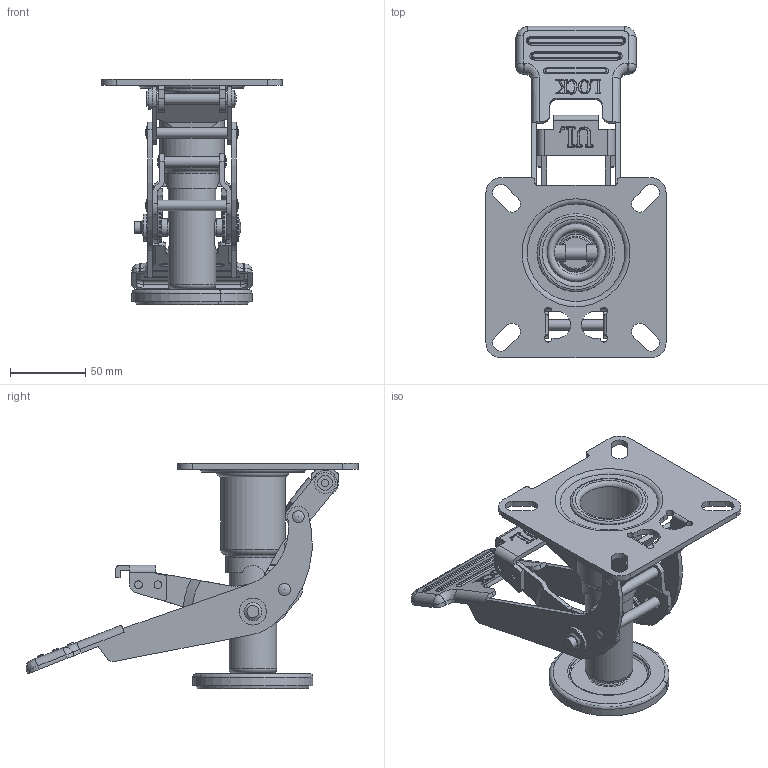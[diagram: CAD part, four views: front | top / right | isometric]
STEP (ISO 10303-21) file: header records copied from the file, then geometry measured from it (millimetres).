
FILE_DESCRIPTION( ( 'STEP AP214' ), '1' );
FILE_NAME( ' ', ' ', ( ' ' ), ( ' ' ), 'PSStep 10.0', ' ', ' ' );
FILE_SCHEMA( ( 'automotive_design' ) );
Length unit declared in the file: millimetre
Products named in the file (19): @4181; DAI_LOCK _X2_306E7D50679C_X0_; ENCHU2_LOCK _X2_306E7D50679C_X0_; GOMU_LOCK _X2_306E7D50679C_X0_; @9775; @9788; @9853; @11166; @11320; @11376; @11380; @11452; @11829; @12141; @12433; @12440
Bounding box: 120 x 221.19 x 150 mm (x, y, z)
Volume: 209024.6 mm3; surface area: 164245 mm2
Topology: 19 solids, 19 shells, 896 faces, 2309 edges, 1519 vertices
Faces by surface type: plane 453, cylinder 324, torus 41, cone 28, extrusion 28, sphere 12, bspline 8, offset 2
Full cylindrical faces by diameter (mm): 5 x1, 5.2 x4, 7 x10, 8 x17, 9 x1, 10 x1, 11 x2, 11.5 x1, 12 x2, 14 x1, 18 x3, 20 x2, 25.4 x1, 28.8 x1, 31.8 x1, 32 x1, 33.8 x1, 36 x1, 39 x1, 43 x1, 52 x1
Entity records: 37047 total; most frequent: CARTESIAN_POINT 7628, DIRECTION 4703, ORIENTED_EDGE 4338, EDGE_CURVE 2169, AXIS2_PLACEMENT_3D 1675, VERTEX_POINT 1476, VECTOR 1353, LINE 1325
